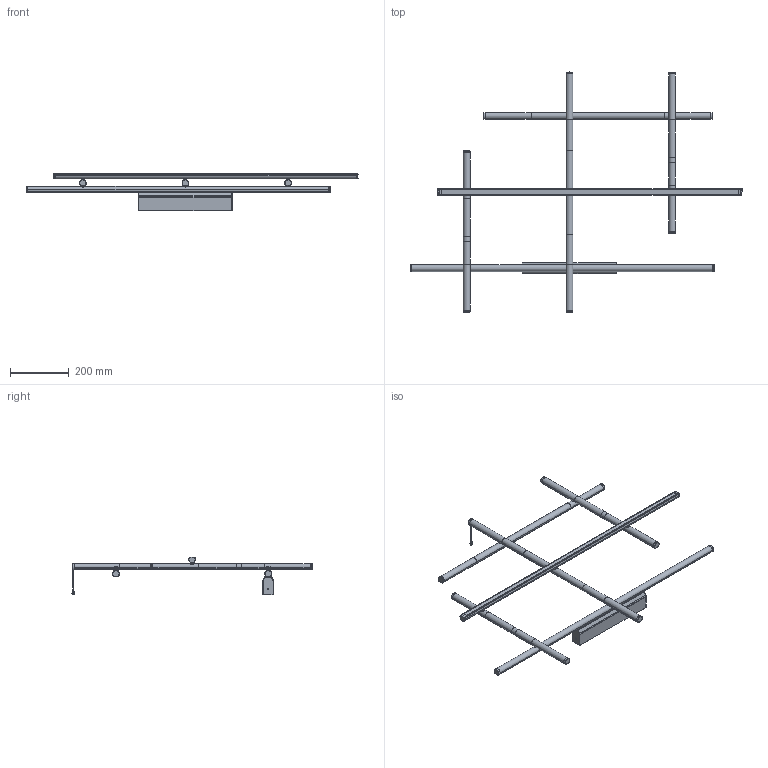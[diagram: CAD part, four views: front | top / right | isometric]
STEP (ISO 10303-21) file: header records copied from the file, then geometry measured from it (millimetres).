
FILE_DESCRIPTION(/* description */ (''),/* implementation_level */ '2;1');
FILE_NAME(/* name */ 'A029__~1',/* time_stamp */ '2024-06-28T17:19:38+02:00',/* author */ (''),/* organization */ (''),/* preprocessor_version */ 'ST-DEVELOPER v16.5',/* originating_system */ '',/* authorisation */ '');
FILE_SCHEMA (('AUTOMOTIVE_DESIGN'));
Length unit declared in the file: millimetre
Products named in the file (1): Document
Bounding box: 1131.82 x 818.4 x 129.54 mm (x, y, z)
Volume: 1637765.5 mm3; surface area: 734222.5 mm2
Topology: 22 solids, 34 shells, 1622 faces, 3794 edges, 2177 vertices
Faces by surface type: bspline 1081, plane 541
Entity records: 54674 total; most frequent: CARTESIAN_POINT 32306, ORIENTED_EDGE 7452, EDGE_CURVE 3750, VERTEX_POINT 2177, B_SPLINE_CURVE_WITH_KNOTS 2076, EDGE_LOOP 1653, ADVANCED_FACE 1622, FACE_OUTER_BOUND 1622
